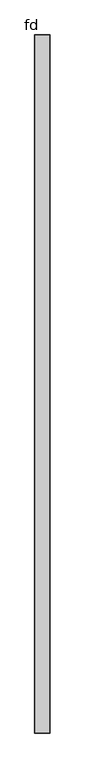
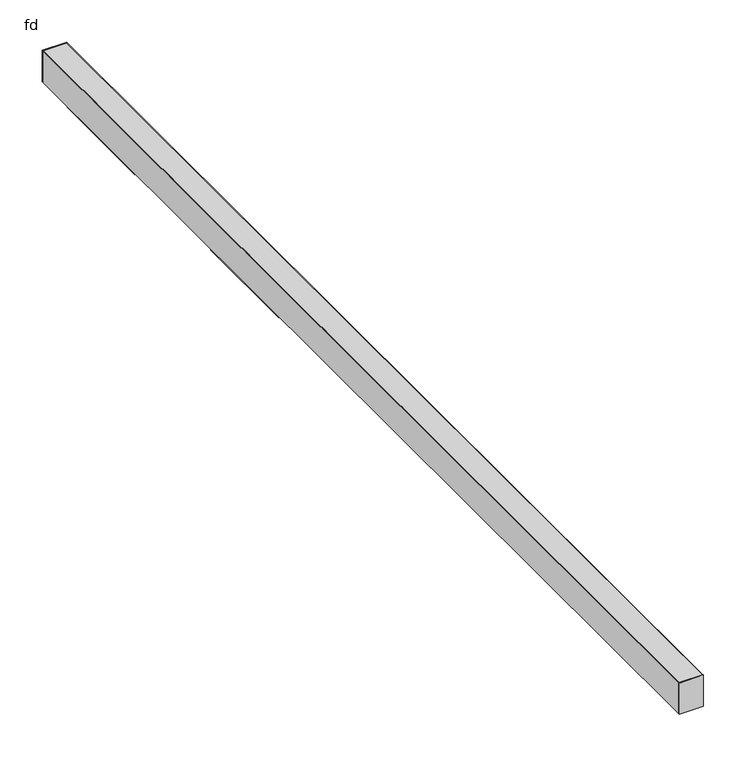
"""IFC4 building model written with IfcOpenShell, lengths in millimetres: light fixture geometry, Nooraneh_Multi Track_Verona : fd."""

import ifcopenshell
import ifcopenshell.guid

model = None  # the IFC model being written
_history = None  # IfcOwnerHistory: only IFC2X3 demands one
_inside = {}  # id of a spatial element -> (the spatial element, [elements in it])
_under = {}  # id of a project, library or spatial element -> (it, [spatial elements below it])
_declared = {}  # id of a project -> (the project, [libraries it declares])
_typed = {}  # id of a type object -> (the type object, [elements of that type])
_made_of = {}  # id of a material, layer set ... -> (it, [elements and type objects made of it])


def new_model(schema):
    """Start an empty IFC model of exactly this schema.

    Asked for "IFC4X3", IfcOpenShell would pick the latest addendum, in which some entities
    have other attributes; the version numbers below select the first issue.
    IFC2X3 requires an IfcOwnerHistory on every rooted entity: one is made here for all.
    """
    global model, _history
    if schema == "IFC4X3":
        model = ifcopenshell.file(schema_version=(4, 3, 0, 0))
    else:
        model = ifcopenshell.file(schema=schema)
    _inside.clear()
    _under.clear()
    _declared.clear()
    _typed.clear()
    _made_of.clear()
    _history = None
    if model.schema == "IFC2X3":
        org = make("IfcOrganization", Name="unknown")
        user = make(
            "IfcPersonAndOrganization",
            ThePerson=make("IfcPerson", FamilyName="unknown"),
            TheOrganization=org,
        )
        app = make(
            "IfcApplication",
            ApplicationDeveloper=org,
            Version="unknown",
            ApplicationFullName="unknown",
            ApplicationIdentifier="unknown",
        )
        _history = make(
            "IfcOwnerHistory",
            OwningUser=user,
            OwningApplication=app,
            ChangeAction="ADDED",
            CreationDate=0,
        )
    return model


def make(cls, **values):
    """One entity of the class cls with the attributes given. An attribute that is None is left unset."""
    return model.create_entity(
        cls, **{name: value for name, value in values.items() if value is not None}
    )


def rooted(cls, **values):
    """An entity with a GlobalId (a new one), such as an element, a storey or a relation."""
    return make(cls, GlobalId=ifcopenshell.guid.new(), OwnerHistory=_history, **values)


def si_unit(unit_type, name, prefix=None):
    """IfcSIUnit, for example si_unit("LENGTHUNIT", "METRE", prefix="MILLI")."""
    return make("IfcSIUnit", UnitType=unit_type, Prefix=prefix, Name=name)


def assignment(units):
    """IfcUnitAssignment: the units of a project."""
    return None if units is None else make("IfcUnitAssignment", Units=units)


def point(xyz):
    """IfcCartesianPoint."""
    return None if xyz is None else make("IfcCartesianPoint", Coordinates=xyz)


def direction(xyz):
    """IfcDirection."""
    return None if xyz is None else make("IfcDirection", DirectionRatios=xyz)


def frame(location, z_axis=None, x_axis=None):
    """IfcAxis2Placement3D, a coordinate frame: its origin and axes. An axis left out is left unset."""
    return make(
        "IfcAxis2Placement3D",
        Location=point(location),
        Axis=direction(z_axis),
        RefDirection=direction(x_axis),
    )


def origin():
    """The frame at (0, 0, 0) with its axes left unset."""
    return frame((0.0, 0.0, 0.0))


def origin_with_axes():
    """The frame at (0, 0, 0) with the z axis (0, 0, 1) and the x axis (1, 0, 0) written out."""
    return frame((0.0, 0.0, 0.0), z_axis=(0.0, 0.0, 1.0), x_axis=(1.0, 0.0, 0.0))


def place(relative_to, where):
    """IfcLocalPlacement: puts the frame where relative to a parent placement (None: the world)."""
    return make(
        "IfcLocalPlacement", PlacementRelTo=relative_to, RelativePlacement=where
    )


def context(
    kind, dimensions, precision=None, world=None, true_north=None, identifier=None
):
    """IfcGeometricRepresentationContext, for example the 3D "Model" context."""
    return make(
        "IfcGeometricRepresentationContext",
        ContextIdentifier=identifier,
        ContextType=kind,
        CoordinateSpaceDimension=dimensions,
        Precision=precision,
        WorldCoordinateSystem=world,
        TrueNorth=true_north,
    )


def project(units=None, contexts=None):
    """IfcProject with its units and contexts."""
    return rooted(
        "IfcProject",
        Name="project",
        RepresentationContexts=contexts,
        UnitsInContext=assignment(units),
    )


def spatial(cls, under=None, at=None, **own):
    """A site, building, storey or space (cls), placed at a placement, below another one or the project."""
    s = rooted(cls, ObjectPlacement=at, **own)
    if under is not None:
        _under.setdefault(under.id(), (under, []))[1].append(s)
    return s


def polyline(points):
    """IfcPolyline through the points."""
    return make("IfcPolyline", Points=[point(p) for p in points])


def outline(outer, holes=None, kind="AREA"):
    """IfcArbitraryClosedProfileDef: a profile drawn as a closed curve; with holes, ...WithVoids."""
    if holes is None:
        return make("IfcArbitraryClosedProfileDef", ProfileType=kind, OuterCurve=outer)
    return make(
        "IfcArbitraryProfileDefWithVoids",
        ProfileType=kind,
        OuterCurve=outer,
        InnerCurves=holes,
    )


def extrude(swept, where, along, depth):
    """IfcExtrudedAreaSolid: the profile swept, set in the frame where, extruded along a direction by depth."""
    return make(
        "IfcExtrudedAreaSolid",
        SweptArea=swept,
        Position=where,
        ExtrudedDirection=direction(along),
        Depth=depth,
    )


def shape(context_of_items, identifier, shape_type, items):
    """IfcShapeRepresentation: the items that make up one representation, for example the "Body"."""
    return make(
        "IfcShapeRepresentation",
        ContextOfItems=context_of_items,
        RepresentationIdentifier=identifier,
        RepresentationType=shape_type,
        Items=items,
    )


def source(mapping_origin, context_of_items, identifier, shape_type, items):
    """IfcRepresentationMap: a shape defined once, which mapped items show again and again."""
    return make(
        "IfcRepresentationMap",
        MappingOrigin=mapping_origin,
        MappedRepresentation=shape(context_of_items, identifier, shape_type, items),
    )


def transform(
    local_origin,
    x_axis=None,
    y_axis=None,
    z_axis=None,
    scale=None,
    scale2=None,
    scale3=None,
    uniform=True,
):
    """IfcCartesianTransformationOperator3D, or its non-uniform kind. x_axis, y_axis, z_axis: its Axis1, 2, 3."""
    if uniform:
        return make(
            "IfcCartesianTransformationOperator3D",
            Axis1=direction(x_axis),
            Axis2=direction(y_axis),
            LocalOrigin=point(local_origin),
            Scale=scale,
            Axis3=direction(z_axis),
        )
    return make(
        "IfcCartesianTransformationOperator3DnonUniform",
        Axis1=direction(x_axis),
        Axis2=direction(y_axis),
        LocalOrigin=point(local_origin),
        Scale=scale,
        Axis3=direction(z_axis),
        Scale2=scale2,
        Scale3=scale3,
    )


def mapped(mapping_source, mapping_target):
    """IfcMappedItem: shows the shape of a source again, moved by a transform."""
    return make(
        "IfcMappedItem", MappingSource=mapping_source, MappingTarget=mapping_target
    )


def made_of(thing, what):
    """Note that an element or type object is made of a material, layer set ...; save() writes the relation."""
    if what is not None:
        _made_of.setdefault(what.id(), (what, []))[1].append(thing)
    return thing


def element(
    cls,
    number,
    at=None,
    inside=None,
    cuts=None,
    type_object=None,
    material=None,
    context=None,
    identifier="Body",
    shape_type=None,
    held_by="IfcProductDefinitionShape",
    body=None,
    shapes=None,
    **own,
):
    """One element of the class cls, such as IfcWall. Its Tag is "e" and its number.

    at: its placement. inside: the storey or other place that contains it. cuts: it is an
    opening in that element (IfcRelVoidsElement). A single representation is given by context,
    identifier, shape_type and body (its items); several are given by shapes. held_by: the class
    of the entity that holds the representations. save() writes the other relations.
    """
    e = rooted(cls, Tag="e%d" % number, ObjectPlacement=at, **own)
    if body is not None:
        shapes = [shape(context, identifier, shape_type, body)]
    if shapes is not None:
        e.Representation = make(held_by, Representations=shapes)
    if inside is not None:
        _inside.setdefault(inside.id(), (inside, []))[1].append(e)
    if cuts is not None:
        rooted(
            "IfcRelVoidsElement", RelatingBuildingElement=cuts, RelatedOpeningElement=e
        )
    if type_object is not None:
        _typed.setdefault(type_object.id(), (type_object, []))[1].append(e)
    return made_of(e, material)


def aggregate(whole, parts):
    """IfcRelAggregates: a whole, such as a stair, and the parts it consists of."""
    return rooted("IfcRelAggregates", RelatingObject=whole, RelatedObjects=parts)


def save(model, path):
    """Write the relations noted so far, then the file.

    IfcRelAggregates (storeys below a building ...), IfcRelContainedInSpatialStructure (elements
    in a storey), IfcRelDefinesByType, IfcRelAssociatesMaterial and IfcRelDeclares: one each for
    every whole, place, type object, material and project.
    """
    for whole, parts in _under.values():
        aggregate(whole, parts)
    for where, things in _inside.values():
        rooted(
            "IfcRelContainedInSpatialStructure",
            RelatedElements=things,
            RelatingStructure=where,
        )
    for kind, things in _typed.values():
        rooted("IfcRelDefinesByType", RelatedObjects=things, RelatingType=kind)
    for what, things in _made_of.values():
        rooted("IfcRelAssociatesMaterial", RelatedObjects=things, RelatingMaterial=what)
    for by, libraries in _declared.values():
        rooted("IfcRelDeclares", RelatingContext=by, RelatedDefinitions=libraries)
    model.write(path)


def fd_7908a0ea(model_context):
    return source(origin(), model_context, "Body", "SweptSolid", [
        extrude(outline(polyline([(5.986767, 211.0), (-5.986767, 211.0), (-5.986767, 371.0), (5.986767, 371.0), (5.986767, 211.0)])), origin_with_axes(), (0.0, 0.0, 1.0), 16.25),
        extrude(outline(polyline([(5.986767, 550.0), (-5.986767, 550.0), (-5.986767, 710.0), (5.986767, 710.0), (5.986767, 550.0)])), origin_with_axes(), (0.0, 0.0, 1.0), 16.25),
        extrude(outline(polyline([(15.5, 749.0), (15.5, -750.0), (-15.5, -750.0), (-15.5, 749.0), (15.5, 749.0)])), frame((0.0, 0.0, 50.3796957), z_axis=(0.0, 0.0, 1.0), x_axis=(1.0, 0.0, 0.0)), (0.0, 0.0, 1.0), 10.8703043),
        extrude(outline(polyline([(16.5, 750.0), (16.5, 749.0), (-16.5, 749.0), (-16.5, 750.0), (16.5, 750.0)])), frame((0.0, 0.0, 16.25), z_axis=(0.0, 0.0, 1.0), x_axis=(1.0, 0.0, 0.0)), (0.0, 0.0, 1.0), 45.0),
        extrude(outline(polyline([(16.5, -750.0), (16.5, -751.0), (-16.5, -751.0), (-16.5, -750.0), (16.5, -750.0)])), frame((0.0, 0.0, 16.25), z_axis=(0.0, 0.0, 1.0), x_axis=(1.0, 0.0, 0.0)), (0.0, 0.0, 1.0), 45.0),
        extrude(outline(polyline([(16.25, 16.5), (61.25, 16.5), (61.25, 15.5), (39.8505687, 15.5), (39.8505687, -15.5), (61.25, -15.5), (61.25, -16.5), (16.25, -16.5), (16.25, 16.5)]), holes=[polyline([(17.25, 15.5), (17.25, -15.5), (37.8505687, -15.5), (37.8505687, 15.5), (17.25, 15.5)])]), frame((0.0, -750.0, 0.0), z_axis=(0.0, 1.0, 0.0), x_axis=(0.0, 0.0, 1.0)), (0.0, 0.0, 1.0), 1500.0),
    ])


if __name__ == "__main__":
    model = new_model("IFC4")
    model_context = context("Model", 3, world=origin())
    ifc_project = project(units=[si_unit("LENGTHUNIT", "METRE", prefix="MILLI")], contexts=[model_context])
    site = spatial("IfcSite", under=ifc_project)
    building = spatial("IfcBuilding", under=site)
    placement = place(None, origin())
    fd_shape = fd_7908a0ea(model_context)
    element("IfcLightFixture", 1, ObjectType="Nooraneh_Multi Track_Verona : fd", at=placement, inside=building, context=model_context, shape_type="MappedRepresentation", body=[
        mapped(fd_shape, transform((0.0, 0.0, 0.0), x_axis=(1.0, 0.0, 0.0), y_axis=(0.0, 1.0, 0.0), z_axis=(0.0, 0.0, 1.0))),
    ])
    save(model, "model.ifc")
